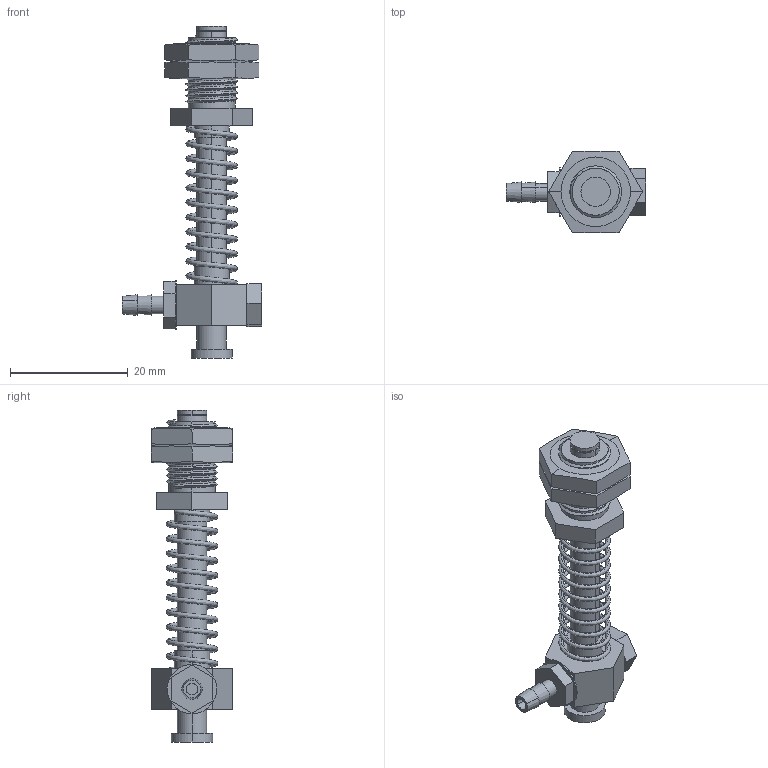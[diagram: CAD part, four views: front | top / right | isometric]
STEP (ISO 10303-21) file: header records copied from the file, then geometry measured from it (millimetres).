
FILE_DESCRIPTION (( 'STEP AP214' ), '1' );
FILE_NAME ('VFST-20M10.STEP', '2019-11-15T09:29:45', ( '微软用户' ), ( '微软中国' ), 'SwSTEP 2.0', 'SolidWorks 2016', '' );
FILE_SCHEMA (( 'AUTOMOTIVE_DESIGN' ));
Length unit declared in the file: millimetre
Products named in the file (1): VFST-20M10
Bounding box: 23.7 x 13.86 x 56.5 mm (x, y, z)
Volume: 3487.2 mm3; surface area: 4903.3 mm2
Topology: 9 solids, 9 shells, 181 faces, 439 edges, 288 vertices
Faces by surface type: cylinder 85, plane 74, cone 12, bspline 10
Entity records: 13427 total; most frequent: CARTESIAN_POINT 7373, ORIENTED_EDGE 878, DIRECTION 737, EDGE_CURVE 439, VERTEX_POINT 288, AXIS2_PLACEMENT_3D 267, EDGE_LOOP 207, VECTOR 203
